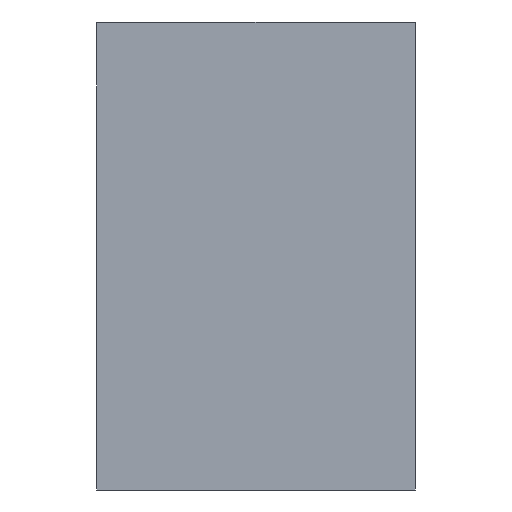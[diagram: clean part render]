
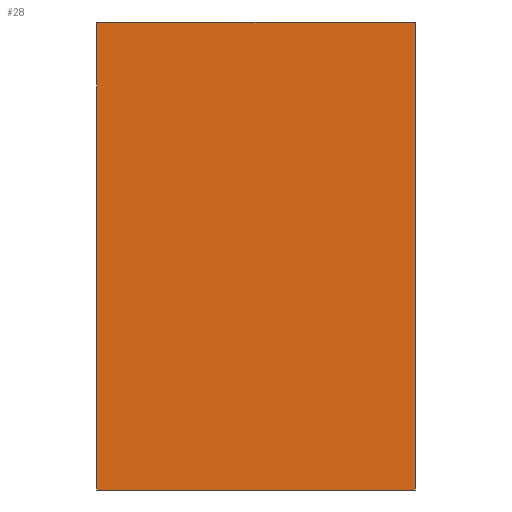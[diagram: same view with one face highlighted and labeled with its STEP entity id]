
A CAD part, front view. The second image highlights one B-rep face of the part: STEP entity #28.
In plain terms, the highlighted planar face has unit normal (0, -1, 0).
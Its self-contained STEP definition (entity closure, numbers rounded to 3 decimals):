
#28=ADVANCED_FACE('',(#62),#550,.T.);
#62=FACE_OUTER_BOUND('',#96,.T.);
#96=EDGE_LOOP('',(#184,#185,#186,#187));
#184=ORIENTED_EDGE('',*,*,#327,.T.);
#185=ORIENTED_EDGE('',*,*,#335,.T.);
#186=ORIENTED_EDGE('',*,*,#311,.F.);
#187=ORIENTED_EDGE('',*,*,#334,.F.);
#311=EDGE_CURVE('',#477,#484,#419,.T.);
#327=EDGE_CURVE('',#492,#499,#435,.T.);
#334=EDGE_CURVE('',#492,#477,#442,.T.);
#335=EDGE_CURVE('',#499,#484,#443,.T.);
#419=B_SPLINE_CURVE_WITH_KNOTS('',1,(#896,#897,#898,#899),.UNSPECIFIED.,
 .F.,.F.,(2,1,1,2),(47.563,69.563,96.23,
99.094),.UNSPECIFIED.);
#435=B_SPLINE_CURVE_WITH_KNOTS('',1,(#931,#932,#933,#934),.UNSPECIFIED.,
 .F.,.F.,(2,1,1,2),(47.563,69.563,96.23,
99.094),.UNSPECIFIED.);
#442=B_SPLINE_CURVE_WITH_KNOTS('',1,(#952,#953,#954),.UNSPECIFIED.,.F.,
 .F.,(2,1,2),(-47.563,-23.863,-0.163),
 .UNSPECIFIED.);
#443=B_SPLINE_CURVE_WITH_KNOTS('',1,(#955,#956,#957),.UNSPECIFIED.,.F.,
 .F.,(2,1,2),(-47.4,-23.7,0.),.UNSPECIFIED.);
#477=VERTEX_POINT('',#809);
#484=VERTEX_POINT('',#816);
#492=VERTEX_POINT('',#824);
#499=VERTEX_POINT('',#831);
#550=PLANE('',#594);
#594=AXIS2_PLACEMENT_3D('',#648,#621,$);
#621=DIRECTION('',(0.,-1.,0.));
#648=CARTESIAN_POINT('',(20.2,128.875,408.605));
#809=CARTESIAN_POINT('',(-27.363,128.875,408.605));
#816=CARTESIAN_POINT('',(-27.363,128.875,478.272));
#824=CARTESIAN_POINT('',(20.037,128.875,408.605));
#831=CARTESIAN_POINT('',(20.037,128.875,478.272));
#896=CARTESIAN_POINT('',(-27.363,128.875,408.605));
#897=CARTESIAN_POINT('',(-27.363,128.875,430.605));
#898=CARTESIAN_POINT('',(-27.363,128.875,457.272));
#899=CARTESIAN_POINT('',(-27.363,128.875,478.272));
#931=CARTESIAN_POINT('',(20.037,128.875,408.605));
#932=CARTESIAN_POINT('',(20.037,128.875,430.605));
#933=CARTESIAN_POINT('',(20.037,128.875,457.272));
#934=CARTESIAN_POINT('',(20.037,128.875,478.272));
#952=CARTESIAN_POINT('',(20.037,128.875,408.605));
#953=CARTESIAN_POINT('',(-3.663,128.875,408.605));
#954=CARTESIAN_POINT('',(-27.363,128.875,408.605));
#955=CARTESIAN_POINT('',(20.037,128.875,478.272));
#956=CARTESIAN_POINT('',(-3.663,128.875,478.272));
#957=CARTESIAN_POINT('',(-27.363,128.875,478.272));
